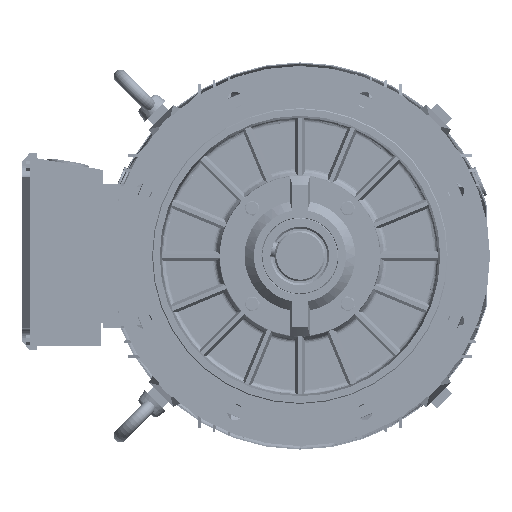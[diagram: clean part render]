
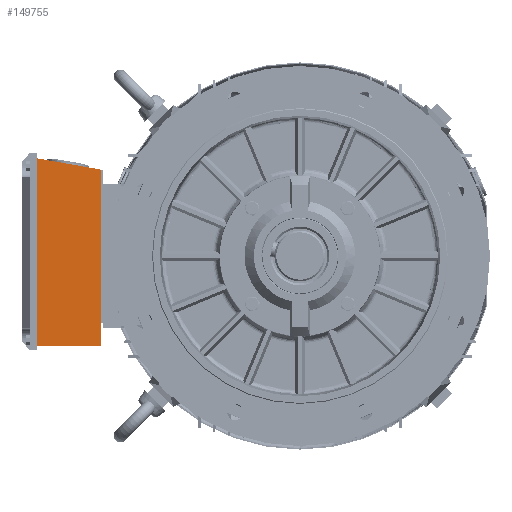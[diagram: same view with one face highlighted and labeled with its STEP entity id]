
A CAD part, left-side view. The second image highlights one B-rep face of the part: STEP entity #149755.
In plain terms, the highlighted planar face has unit normal (-1, 0, 0).
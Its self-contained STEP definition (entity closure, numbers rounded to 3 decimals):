
#1125 = DIRECTION ( 'NONE',  ( 0., 0., -1. ) ) ;
#1335 = VECTOR ( 'NONE', #1125, 1000. ) ;
#2159 = DIRECTION ( 'NONE',  ( 0., -1., 0. ) ) ;
#4171 = LINE ( 'NONE', #95681, #125154 ) ;
#7321 = ORIENTED_EDGE ( 'NONE', *, *, #267936, .T. ) ;
#11513 = LINE ( 'NONE', #194599, #115790 ) ;
#23626 = LINE ( 'NONE', #274304, #1335 ) ;
#25687 = CARTESIAN_POINT ( 'NONE',  ( -30.206, 215.768, -106.82 ) ) ;
#28656 = CARTESIAN_POINT ( 'NONE',  ( -30.206, 291.768, 115.581 ) ) ;
#44302 = EDGE_LOOP ( 'NONE', ( #111307, #7321, #75297, #222612 ) ) ;
#48636 = FACE_OUTER_BOUND ( 'NONE', #44302, .T. ) ;
#57162 = VERTEX_POINT ( 'NONE', #162150 ) ;
#74281 = EDGE_CURVE ( 'NONE', #89831, #57162, #23626, .T. ) ;
#75297 = ORIENTED_EDGE ( 'NONE', *, *, #216080, .T. ) ;
#89166 = LINE ( 'NONE', #161171, #185137 ) ;
#89831 = VERTEX_POINT ( 'NONE', #28656 ) ;
#95681 = CARTESIAN_POINT ( 'NONE',  ( -30.206, 215.768, -106.82 ) ) ;
#111307 = ORIENTED_EDGE ( 'NONE', *, *, #185418, .T. ) ;
#115790 = VECTOR ( 'NONE', #199025, 1000. ) ;
#125154 = VECTOR ( 'NONE', #230812, 1000. ) ;
#129529 = VERTEX_POINT ( 'NONE', #25687 ) ;
#140554 = VERTEX_POINT ( 'NONE', #202521 ) ;
#149755 = ADVANCED_FACE ( 'NONE', ( #48636 ), #252801, .F. ) ;
#161171 = CARTESIAN_POINT ( 'NONE',  ( -30.206, 215.768, 102.18 ) ) ;
#162150 = CARTESIAN_POINT ( 'NONE',  ( -30.206, 291.768, -106.82 ) ) ;
#185137 = VECTOR ( 'NONE', #249775, 1000. ) ;
#185418 = EDGE_CURVE ( 'NONE', #57162, #129529, #4171, .T. ) ;
#194599 = CARTESIAN_POINT ( 'NONE',  ( -30.206, 215.768, -106.82 ) ) ;
#199025 = DIRECTION ( 'NONE',  ( 0., 0., 1. ) ) ;
#202521 = CARTESIAN_POINT ( 'NONE',  ( -30.206, 215.768, 102.18 ) ) ;
#207753 = DIRECTION ( 'NONE',  ( 1., 0., 0. ) ) ;
#216080 = EDGE_CURVE ( 'NONE', #140554, #89831, #89166, .T. ) ;
#222612 = ORIENTED_EDGE ( 'NONE', *, *, #74281, .T. ) ;
#230812 = DIRECTION ( 'NONE',  ( 0., -1., 0. ) ) ;
#231757 = CARTESIAN_POINT ( 'NONE',  ( -30.206, 291.768, -106.82 ) ) ;
#233020 = AXIS2_PLACEMENT_3D ( 'NONE', #231757, #207753, #2159 ) ;
#249775 = DIRECTION ( 'NONE',  ( 0., 0.985, 0.174 ) ) ;
#252801 = PLANE ( 'NONE',  #233020 ) ;
#267936 = EDGE_CURVE ( 'NONE', #129529, #140554, #11513, .T. ) ;
#274304 = CARTESIAN_POINT ( 'NONE',  ( -30.206, 291.768, -106.82 ) ) ;
